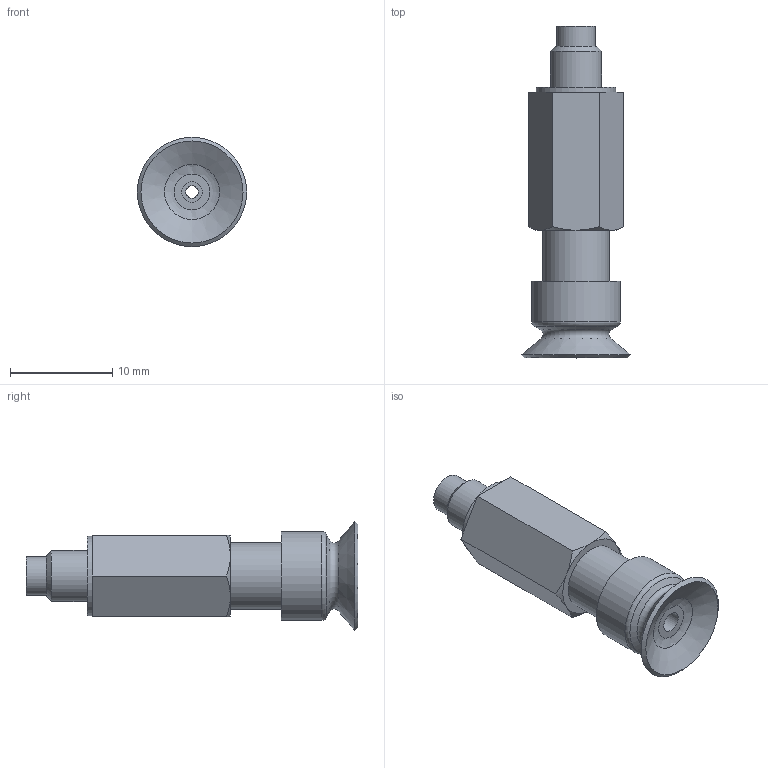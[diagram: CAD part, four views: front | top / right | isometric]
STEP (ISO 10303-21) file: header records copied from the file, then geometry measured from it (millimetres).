
FILE_DESCRIPTION(('STEP AP203'),'1');
FILE_NAME('.stp','2025-04-07T04:42:58',(' '),(' '),'Spatial InterOp 3D',' ',' ');
FILE_SCHEMA(('CONFIG_CONTROL_DESIGN'));
Length unit declared in the file: millimetre
Products named in the file (4): BPSS-L5-BPFG-10A-※; PSS-7-L5-M; PSS-7-L5-F; BPFG-10A-※
Assembly tree (3 placements, depth 2):
  BPSS-L5-BPFG-10A-※
    PSS-7-L5-M
    PSS-7-L5-F
    BPFG-10A-※
Bounding box: 10.72 x 32.5 x 10.72 mm (x, y, z)
Volume: 1266.3 mm3; surface area: 1880.5 mm2
Topology: 3 solids, 3 shells, 55 faces, 103 edges, 65 vertices
Faces by surface type: plane 23, cylinder 15, cone 11, torus 5, bspline 1
Full cylindrical faces by diameter (mm): 1.2 x1, 2 x1, 2.4 x2, 3.4 x1, 3.8 x1, 4 x2, 5 x1, 6 x2, 6.5 x2, 7.8 x1, 8.7 x1
Entity records: 1437 total; most frequent: CARTESIAN_POINT 242, DIRECTION 224, ORIENTED_EDGE 144, AXIS2_PLACEMENT_3D 106, EDGE_LOOP 98, FACE_OUTER_BOUND 76, EDGE_CURVE 72, VERTEX_POINT 60
